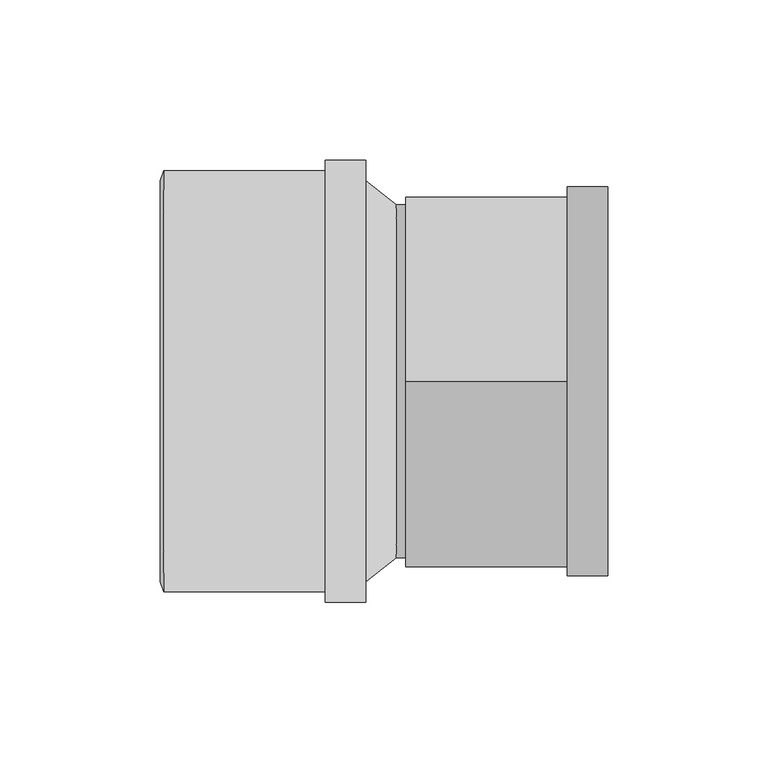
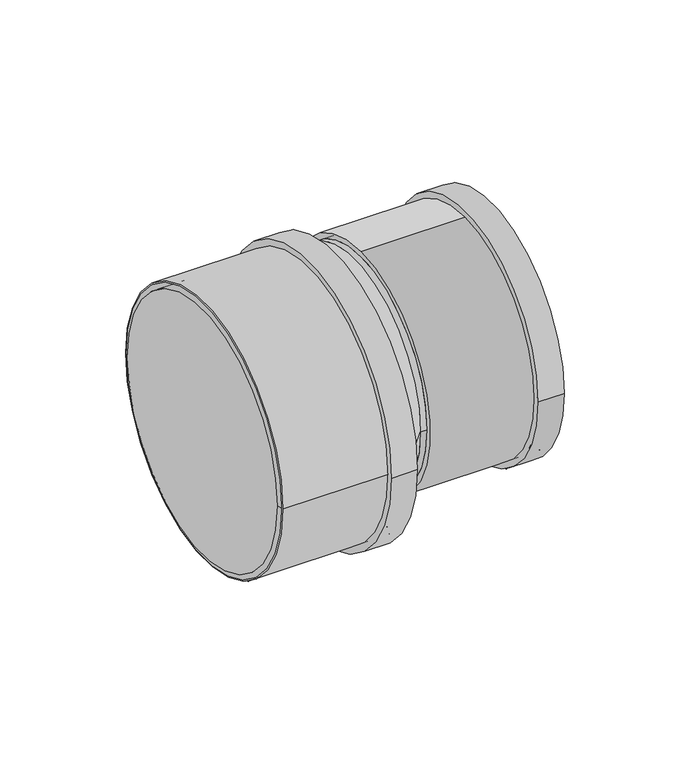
"""IFC4 building model written with IfcOpenShell, lengths in millimetres: pipe fitting geometry, Superdrain HTR-Reducer : Superdrain HTR-Reducer."""

from ifc_helpers import new_model, si_unit, point, frame, frame_2d, origin, origin_2d, place, context, project, spatial, polyline, circle_curve, trimmed, segment, composite_curve, outline, extrude, source, transform, mapped, element, save
from ifc_brep_helpers import plane_surface, revolved_surface, spline_surface, advanced_brep


def pipe_fitting_a5708cb5(model_context):
    return source(origin(), model_context, "Body", "SolidModel", [
        extrude(outline(composite_curve([segment(trimmed(circle_curve(frame_2d((0.0, 0.1450234)), 65.625), [point((65.625, 0.1450234))], [point((-65.625, 0.1450234))], False, "CARTESIAN"), True, "CONTINUOUS"), segment(trimmed(circle_curve(frame_2d((0.0, 0.1450234)), 65.625), [point((-65.625, 0.1450234))], [point((65.625, 0.1450234))], False, "CARTESIAN"), True, "CONTINUOUS")], self_intersect=False), holes=[composite_curve([segment(trimmed(circle_curve(frame_2d((0.0, 0.1450234)), 62.5), [point((62.5, 0.1450234))], [point((-62.5, 0.1450234))], True, "CARTESIAN"), True, "CONTINUOUS"), segment(trimmed(circle_curve(frame_2d((0.0, 0.1450234)), 62.5), [point((-62.5, 0.1450234))], [point((62.5, 0.1450234))], True, "CARTESIAN"), True, "CONTINUOUS")], self_intersect=False)]), frame((-63.0, 0.0, 0.0), z_axis=(1.0, 0.0, 0.0), x_axis=(0.0, 1.0, 0.0)), (0.0, 0.0, 1.0), 63.0),
        extrude(outline(composite_curve([segment(trimmed(circle_curve(frame_2d((0.0, 0.1450234)), 68.90625), [point((68.90625, 0.1450234))], [point((-68.90625, 0.1450234))], False, "CARTESIAN"), True, "CONTINUOUS"), segment(trimmed(circle_curve(frame_2d((0.0, 0.1450234)), 68.90625), [point((-68.90625, 0.1450234))], [point((68.90625, 0.1450234))], False, "CARTESIAN"), True, "CONTINUOUS")], self_intersect=False), holes=[composite_curve([segment(trimmed(circle_curve(frame_2d((0.0, 0.1450234)), 62.5), [point((62.5, 0.1450234))], [point((-62.5, 0.1450234))], True, "CARTESIAN"), True, "CONTINUOUS"), segment(trimmed(circle_curve(frame_2d((0.0, 0.1450234)), 62.5), [point((-62.5, 0.1450234))], [point((62.5, 0.1450234))], True, "CARTESIAN"), True, "CONTINUOUS")], self_intersect=False)]), frame((-12.6, 0.0, 0.0), z_axis=(1.0, 0.0, 0.0), x_axis=(0.0, 1.0, 0.0)), (0.0, 0.0, 1.0), 12.6),
        advanced_brep(
        [(-64.0, 62.5, 0.1450234), (-64.0, -62.5, 0.1450234), (-63.0, 65.625, 0.1450234), (-63.0, -65.625, 0.1450234)],
        [
            (0, 1, circle_curve(frame((-64.0, 0.0, 0.1450234), z_axis=(-1.0, 0.0, 0.0), x_axis=(0.0, 1.0, 0.0)), 62.5)),
            (1, 0, circle_curve(frame((-64.0, 0.0, 0.1450234), z_axis=(-1.0, 0.0, 0.0), x_axis=(0.0, -1.0, 0.0)), 62.5)),
            (2, 3, circle_curve(frame((-63.0, 0.0, 0.1450234), z_axis=(1.0, 0.0, 0.0), x_axis=(0.0, -1.0, 0.0)), 65.625)),
            (3, 2, circle_curve(frame((-63.0, 0.0, 0.1450234), z_axis=(1.0, 0.0, 0.0), x_axis=(0.0, 1.0, 0.0)), 65.625)),
            (3, 1),
            (0, 2),
        ],
        [
            plane_surface(frame((-64.0, 0.0, 0.1450234), z_axis=(-1.0, 0.0, 0.0), x_axis=(0.0, 0.0, -1.0))),
            plane_surface(frame((-63.0, 0.0, 0.1450234), z_axis=(1.0, 0.0, 0.0), x_axis=(0.0, 0.0, -1.0))),
            revolved_surface(polyline([(-64.0, 62.5, 0.1450234), (-63.0, 65.625, 0.1450234)]), (-84.0, 0.0, 0.1450234), (1.0, 0.0, 0.0)),
            revolved_surface(polyline([(-64.0, -62.5, 0.1450234), (-63.0, -65.625, 0.1450234)]), (-84.0, 0.0, 0.1450234), (1.0, 0.0, 0.0)),
        ],
        [
            (0, [[1, 2]]),
            (1, [[3, 4]]),
            (2, [[-4, 5, -1, 6]]),
            (3, [[-3, -6, -2, -5]]),
        ],
    ),
        advanced_brep(
        [(9.5, -55.0, 7.5), (9.5, 55.0, 7.5), (0.0, -62.5, 0.0), (0.0, 62.5, 0.0)],
        [
            (0, 1, circle_curve(frame((9.5, 0.0, 7.5), z_axis=(1.0, 0.0, 0.0), x_axis=(0.0, 1.0, 0.0)), 55.0)),
            (1, 0, circle_curve(frame((9.5, 0.0, 7.5), z_axis=(1.0, 0.0, 0.0), x_axis=(0.0, 1.0, 0.0)), 55.0)),
            (2, 3, circle_curve(frame((0.0, 0.0, 0.0), z_axis=(-1.0, 0.0, 0.0), x_axis=(0.0, 1.0, 0.0)), 62.5)),
            (3, 2, circle_curve(frame((0.0, 0.0, 0.0), z_axis=(-1.0, 0.0, 0.0), x_axis=(0.0, 1.0, 0.0)), 62.5)),
            (3, 1),
            (0, 2),
        ],
        [
            plane_surface(frame((9.5, 0.0, 7.5), z_axis=(1.0, 0.0, 0.0), x_axis=(0.0, 0.0, -1.0))),
            plane_surface(frame((0.0, 0.0, 0.0), z_axis=(-1.0, 0.0, 0.0), x_axis=(0.0, 0.0, -1.0))),
            spline_surface(2, 1, [[(0.0, -62.5, 0.0), (9.5, -55.0, 7.5)], [(0.0, -62.5, -62.5), (9.5, -55.0, -47.5)], [(0.0, 0.0, -62.5), (9.5, 0.0, -47.5)], [(0.0, 62.5, -62.5), (9.5, 55.0, -47.5)], [(0.0, 62.5, 0.0), (9.5, 55.0, 7.5)]], [3, 2, 3], [2, 2], [0.0, 1.0, 2.0], [0.0, 1.0], weights=[[1.0, 1.0], [0.7071067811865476, 0.7071067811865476], [1.0, 1.0], [0.7071067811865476, 0.7071067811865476], [1.0, 1.0]]),
            spline_surface(2, 1, [[(0.0, 62.5, 0.0), (9.5, 55.0, 7.5)], [(0.0, 62.5, 62.5), (9.5, 55.0, 62.5)], [(0.0, 0.0, 62.5), (9.5, 0.0, 62.5)], [(0.0, -62.5, 62.5), (9.5, -55.0, 62.5)], [(0.0, -62.5, 0.0), (9.5, -55.0, 7.5)]], [3, 2, 3], [2, 2], [0.0, 1.0, 2.0], [0.0, 1.0], weights=[[1.0, 1.0], [0.7071067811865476, 0.7071067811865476], [1.0, 1.0], [0.7071067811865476, 0.7071067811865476], [1.0, 1.0]]),
        ],
        [
            (0, [[1, 2]]),
            (1, [[3, 4]]),
            (2, [[-4, 5, -1, 6]]),
            (3, [[-3, -6, -2, -5]]),
        ],
    ),
        extrude(outline(composite_curve([segment(trimmed(circle_curve(frame_2d((0.0, 7.5)), 55.0), [point((-55.0, 7.5))], [point((55.0, 7.5))], False, "CARTESIAN"), True, "CONTINUOUS"), segment(trimmed(circle_curve(frame_2d((0.0, 7.5)), 55.0), [point((55.0, 7.5))], [point((-55.0, 7.5))], False, "CARTESIAN"), True, "CONTINUOUS")], self_intersect=False)), frame((9.5, 0.0, 0.0), z_axis=(1.0, 0.0, 0.0), x_axis=(0.0, 1.0, 0.0)), (0.0, 0.0, 1.0), 3.0),
        extrude(outline(composite_curve([segment(trimmed(circle_curve(frame_2d((0.0, 7.5)), 60.6375), [point((-60.6375, 7.5))], [point((60.6375, 7.5))], False, "CARTESIAN"), True, "CONTINUOUS"), segment(trimmed(circle_curve(frame_2d((0.0, 7.5)), 60.6375), [point((60.6375, 7.5))], [point((-60.6375, 7.5))], False, "CARTESIAN"), True, "CONTINUOUS")], self_intersect=False), holes=[composite_curve([segment(trimmed(circle_curve(frame_2d((0.0, 7.5)), 55.0), [point((55.0, 7.5))], [point((-55.0, 7.5))], True, "CARTESIAN"), True, "CONTINUOUS"), segment(trimmed(circle_curve(frame_2d((0.0, 7.5)), 55.0), [point((-55.0, 7.5))], [point((55.0, 7.5))], True, "CARTESIAN"), True, "CONTINUOUS")], self_intersect=False)]), frame((62.9, 0.0, 0.0), z_axis=(1.0, 0.0, 0.0), x_axis=(0.0, 1.0, 0.0)), (0.0, 0.0, 1.0), 12.6),
        extrude(outline(composite_curve([segment(trimmed(circle_curve(frame_2d((0.0, 7.5)), 57.75), [point((0.0, 65.25))], [point((0.0, -50.25))], False, "CARTESIAN"), True, "CONTINUOUS"), segment(trimmed(circle_curve(frame_2d((0.0, 7.5)), 57.75), [point((0.0, -50.25))], [point((0.0, 65.25))], False, "CARTESIAN"), True, "CONTINUOUS")], self_intersect=False), holes=[composite_curve([segment(trimmed(circle_curve(frame_2d((0.0, 7.5)), 55.0), [point((55.0, 7.5))], [point((-55.0, 7.5))], True, "CARTESIAN"), True, "CONTINUOUS"), segment(trimmed(circle_curve(frame_2d((0.0, 7.5)), 55.0), [point((-55.0, 7.5))], [point((55.0, 7.5))], True, "CARTESIAN"), True, "CONTINUOUS")], self_intersect=False)]), frame((12.5, 0.0, 0.0), z_axis=(1.0, 0.0, 0.0), x_axis=(0.0, 1.0, 0.0)), (0.0, 0.0, 1.0), 63.0),
        extrude(outline(composite_curve([segment(trimmed(circle_curve(origin_2d(), 62.5), [point((0.0, 62.5))], [point((0.0, -62.5))], False, "CARTESIAN"), True, "CONTINUOUS"), segment(trimmed(circle_curve(origin_2d(), 62.5), [point((0.0, -62.5))], [point((0.0, 62.5))], False, "CARTESIAN"), True, "CONTINUOUS")], self_intersect=False)), frame((-63.0, 0.0, 0.0), z_axis=(1.0, 0.0, 0.0), x_axis=(0.0, 1.0, 0.0)), (0.0, 0.0, 1.0), 63.0),
    ])


if __name__ == "__main__":
    model = new_model("IFC4")
    model_context = context("Model", 3, world=origin())
    ifc_project = project(units=[si_unit("LENGTHUNIT", "METRE", prefix="MILLI")], contexts=[model_context])
    site = spatial("IfcSite", under=ifc_project)
    building = spatial("IfcBuilding", under=site)
    placement = place(None, origin())
    pipe_fitting_shape = pipe_fitting_a5708cb5(model_context)
    element("IfcPipeFitting", 1, ObjectType="Superdrain HTR-Reducer : Superdrain HTR-Reducer", at=placement, inside=building, context=model_context, shape_type="MappedRepresentation", body=[
        mapped(pipe_fitting_shape, transform((0.0, 0.0, 0.0), x_axis=(1.0, 0.0, 0.0), y_axis=(0.0, 1.0, 0.0), z_axis=(0.0, 0.0, 1.0))),
    ])
    save(model, "model.ifc")
